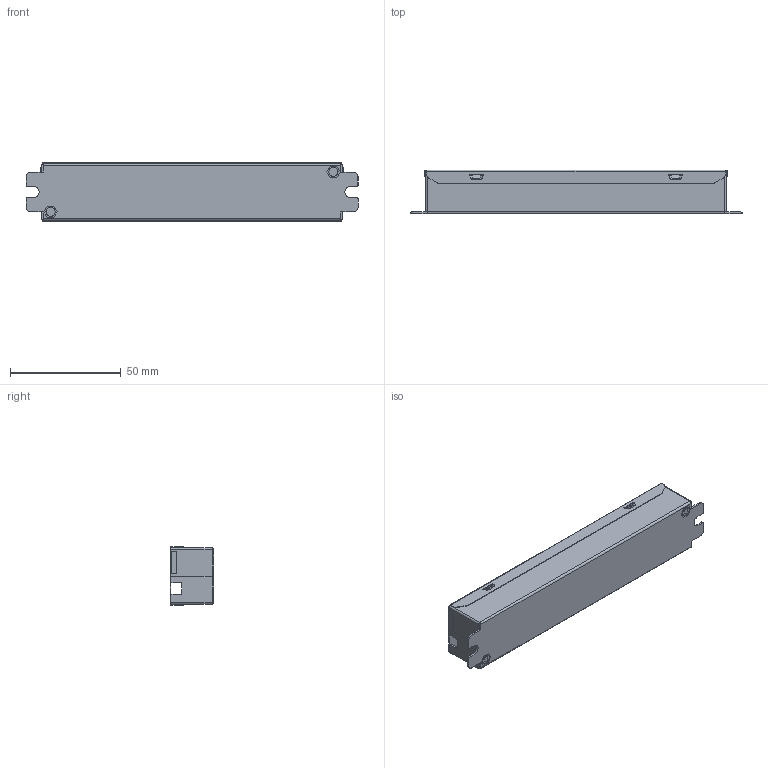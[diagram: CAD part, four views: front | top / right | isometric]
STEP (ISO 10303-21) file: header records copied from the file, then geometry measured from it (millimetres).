
FILE_DESCRIPTION((''),'2;1');
FILE_NAME('SVM_CASE_L150_250718_ASM','2025-08-18T14:16:39',('Administrator'),(''),'CREO PARAMETRIC BY PTC INC, 2020053','CREO PARAMETRIC BY PTC INC, 2020053','');
FILE_SCHEMA(('CONFIG_CONTROL_DESIGN','SHAPE_APPEARANCE_LAYERS_GROUPS'));
Length unit declared in the file: inch
Products named in the file (6): 7_BOTTOM_11_1_1; 7_TOP_8_1_1; NEILUOWEN-M3_10_3_1_1; 7_CASE_ASM_10_1_ASM_1_ASM; ASM0011_ASM_1_ASM; SVM_CASE_L150_250718_ASM
Assembly tree (6 placements, depth 4):
  SVM_CASE_L150_250718_ASM
    ASM0011_ASM_1_ASM
      7_CASE_ASM_10_1_ASM_1_ASM
        7_BOTTOM_11_1_1
        7_TOP_8_1_1
        NEILUOWEN-M3_10_3_1_1  x2
Bounding box: 150 x 19.7 x 26.5 mm (x, y, z)
Volume: 9122.1 mm3; surface area: 30022.2 mm2
Topology: 4 solids, 4 shells, 340 faces, 802 edges, 474 vertices
Faces by surface type: plane 180, cylinder 116, bspline 44
Entity records: 15125 total; most frequent: CARTESIAN_POINT 5693, ORIENTED_EDGE 1460, DIRECTION 1361, PRESENTATION_STYLE_ASSIGNMENT 733, STYLED_ITEM 733, CURVE_STYLE 730, EDGE_CURVE 730, VECTOR 495
